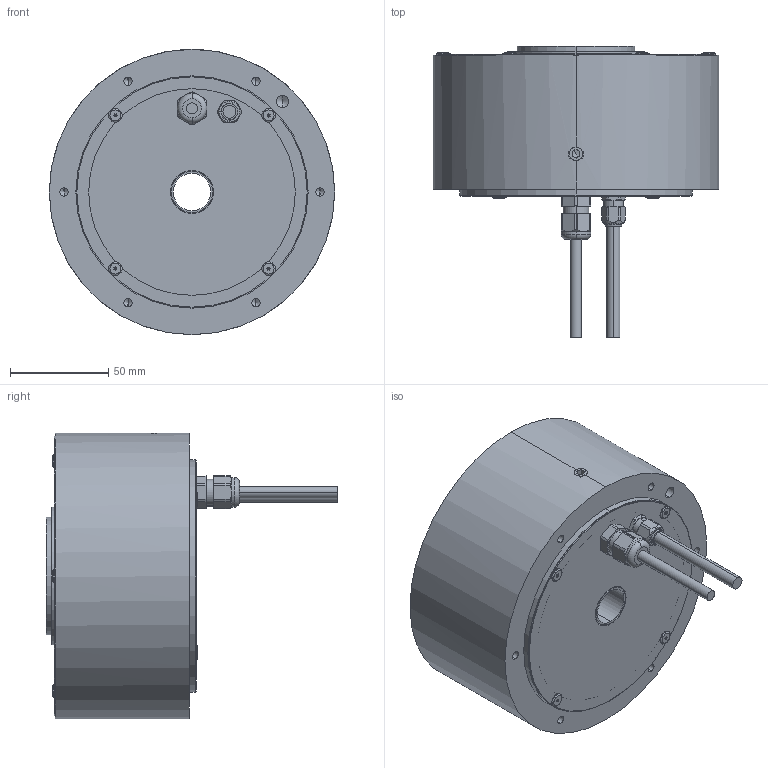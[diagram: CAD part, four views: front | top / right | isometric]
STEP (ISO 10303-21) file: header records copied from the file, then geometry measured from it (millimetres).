
FILE_DESCRIPTION (( 'STEP AP214' ), '1' );
FILE_NAME ('ND140-70-LSP-UC(ABS).step', '2025-03-11T00:56:29', ( '' ), ( '' ), 'SwSTEP 2.0', 'SolidWorks 2024', '' );
FILE_SCHEMA (( 'AUTOMOTIVE_DESIGN' ));
Length unit declared in the file: millimetre
Products named in the file (1): ND140-70-LSP-UC(ABS)
Bounding box: 145 x 148.3 x 145 mm (x, y, z)
Volume: 428195.9 mm3; surface area: 150307.7 mm2
Topology: 17 solids, 17 shells, 680 faces, 1708 edges, 1049 vertices
Faces by surface type: cylinder 378, cone 137, plane 111, torus 32, sphere 22
Entity records: 21287 total; most frequent: CARTESIAN_POINT 4950, DIRECTION 3532, ORIENTED_EDGE 3264, EDGE_CURVE 1632, AXIS2_PLACEMENT_3D 1453, VERTEX_POINT 1049, EDGE_LOOP 777, CIRCLE 772
